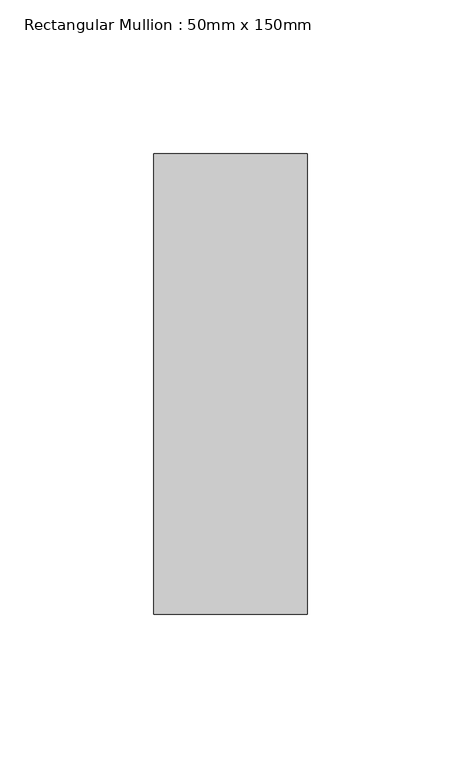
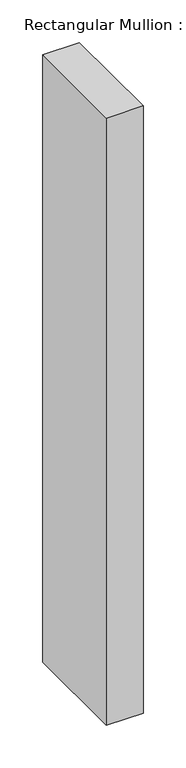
"""IFC4 building model written with IfcOpenShell, lengths in millimetres: member geometry, Rectangular Mullion : 50mm x 150mm."""

from ifc_helpers import new_model, si_unit, frame, origin, place, context, project, spatial, polyline, outline, extrude, source, transform, mapped, element, save


def rectangular_mullion_50mm_x_150mm_4471a7bc(model_context):
    return source(origin(), model_context, "Body", "SweptSolid", [
        extrude(outline(polyline([(25.0, 75.0), (25.0, -75.0), (-25.0, -75.0), (-25.0, 75.0), (25.0, 75.0)])), frame((0.0, 0.0, -870.9473684), z_axis=(0.0, 0.0, 1.0), x_axis=(1.0, 0.0, 0.0)), (0.0, 0.0, 1.0), 870.9473684),
    ])


if __name__ == "__main__":
    model = new_model("IFC4")
    model_context = context("Model", 3, world=origin())
    ifc_project = project(units=[si_unit("LENGTHUNIT", "METRE", prefix="MILLI")], contexts=[model_context])
    site = spatial("IfcSite", under=ifc_project)
    building = spatial("IfcBuilding", under=site)
    placement = place(None, origin())
    rectangular_mullion_50mm_x_150mm_shape = rectangular_mullion_50mm_x_150mm_4471a7bc(model_context)
    element("IfcMember", 1, ObjectType="Rectangular Mullion : 50mm x 150mm", at=placement, inside=building, context=model_context, shape_type="MappedRepresentation", body=[
        mapped(rectangular_mullion_50mm_x_150mm_shape, transform((0.0, 0.0, 0.0), x_axis=(1.0, 0.0, 0.0), y_axis=(0.0, 1.0, 0.0), z_axis=(0.0, 0.0, 1.0))),
    ])
    save(model, "model.ifc")
